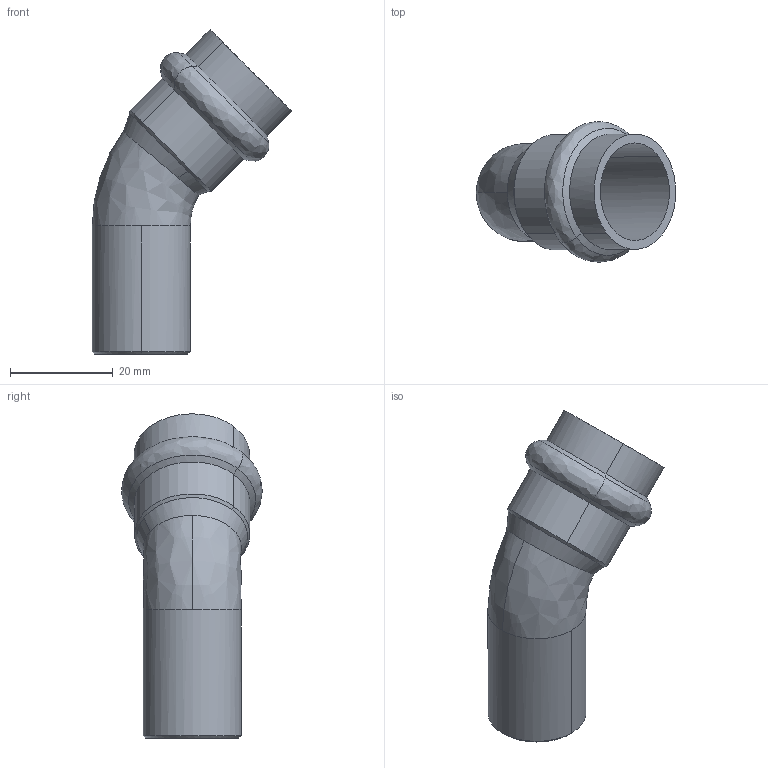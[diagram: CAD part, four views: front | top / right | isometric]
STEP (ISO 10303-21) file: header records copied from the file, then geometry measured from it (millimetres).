
FILE_DESCRIPTION(('STEP AP214'),'1');
FILE_NAME('pim0004551.stp','2015-04-30T15:23:20',('Cad-Pim'),('TransMagic, Inc.'),'TMR11sp0','TransMagic R11',' ');
FILE_SCHEMA(('AUTOMOTIVE_DESIGN'));
Length unit declared in the file: millimetre
Products named in the file (1): pim0004551
Bounding box: 38.86 x 27.42 x 63.21 mm (x, y, z)
Volume: 15311.5 mm3; surface area: 6284.9 mm2
Topology: 1 solids, 1 shells, 25 faces, 67 edges, 45 vertices
Faces by surface type: cone 10, cylinder 8, bspline 7
Entity records: 1378 total; most frequent: CARTESIAN_POINT 609, ORIENTED_EDGE 134, DIRECTION 94, EDGE_CURVE 67, VERTEX_POINT 45, AXIS2_PLACEMENT_3D 38, STYLED_ITEM 26, PRESENTATION_STYLE_ASSIGNMENT 26
